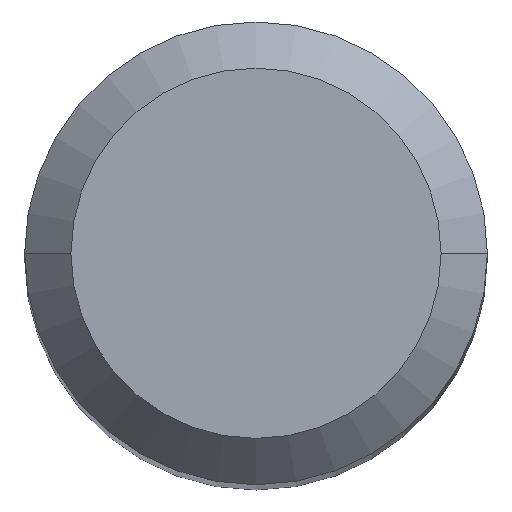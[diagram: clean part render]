
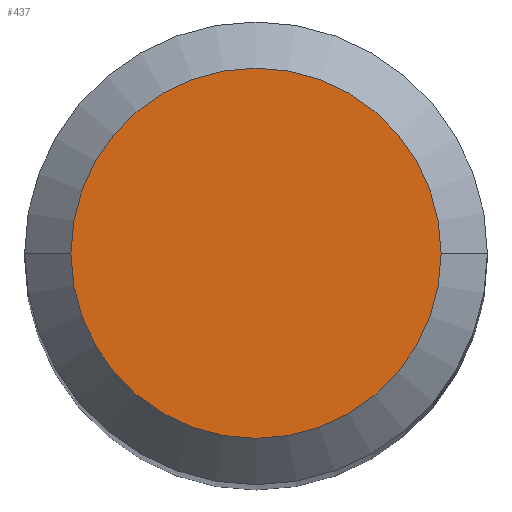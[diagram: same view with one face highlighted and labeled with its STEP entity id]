
A CAD part, top view. The second image highlights one B-rep face of the part: STEP entity #437.
In plain terms, the highlighted planar face has unit normal (0, 0, 1).
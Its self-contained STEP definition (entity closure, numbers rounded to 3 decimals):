
#36 = EDGE_CURVE ( 'NONE', #613, #592, #393, .T. ) ;
#143 = PLANE ( 'NONE',  #341 ) ;
#160 = CARTESIAN_POINT ( 'NONE',  ( 2.4, 0., 0. ) ) ;
#177 = DIRECTION ( 'NONE',  ( 0., 0., -1. ) ) ;
#189 = DIRECTION ( 'NONE',  ( -1., 0., 0. ) ) ;
#266 = EDGE_LOOP ( 'NONE', ( #575, #546 ) ) ;
#289 = CARTESIAN_POINT ( 'NONE',  ( -2.4, 0., 0. ) ) ;
#298 = AXIS2_PLACEMENT_3D ( 'NONE', #425, #177, #189 ) ;
#319 = CARTESIAN_POINT ( 'NONE',  ( 0., 0., 0. ) ) ;
#331 = DIRECTION ( 'NONE',  ( 0., 0., -1. ) ) ;
#341 = AXIS2_PLACEMENT_3D ( 'NONE', #564, #614, #619 ) ;
#393 = CIRCLE ( 'NONE', #298, 2.4 ) ;
#425 = CARTESIAN_POINT ( 'NONE',  ( 0., 0., 0. ) ) ;
#429 = EDGE_CURVE ( 'NONE', #592, #613, #448, .T. ) ;
#437 = ADVANCED_FACE ( 'NONE', ( #569 ), #143, .T. ) ;
#448 = CIRCLE ( 'NONE', #526, 2.4 ) ;
#506 = DIRECTION ( 'NONE',  ( -1., 0., 0. ) ) ;
#526 = AXIS2_PLACEMENT_3D ( 'NONE', #319, #331, #506 ) ;
#546 = ORIENTED_EDGE ( 'NONE', *, *, #429, .F. ) ;
#564 = CARTESIAN_POINT ( 'NONE',  ( 0., 2.4, 0. ) ) ;
#569 = FACE_OUTER_BOUND ( 'NONE', #266, .T. ) ;
#575 = ORIENTED_EDGE ( 'NONE', *, *, #36, .F. ) ;
#592 = VERTEX_POINT ( 'NONE', #160 ) ;
#613 = VERTEX_POINT ( 'NONE', #289 ) ;
#614 = DIRECTION ( 'NONE',  ( 0., 0., 1. ) ) ;
#619 = DIRECTION ( 'NONE',  ( 1., 0., 0. ) ) ;
